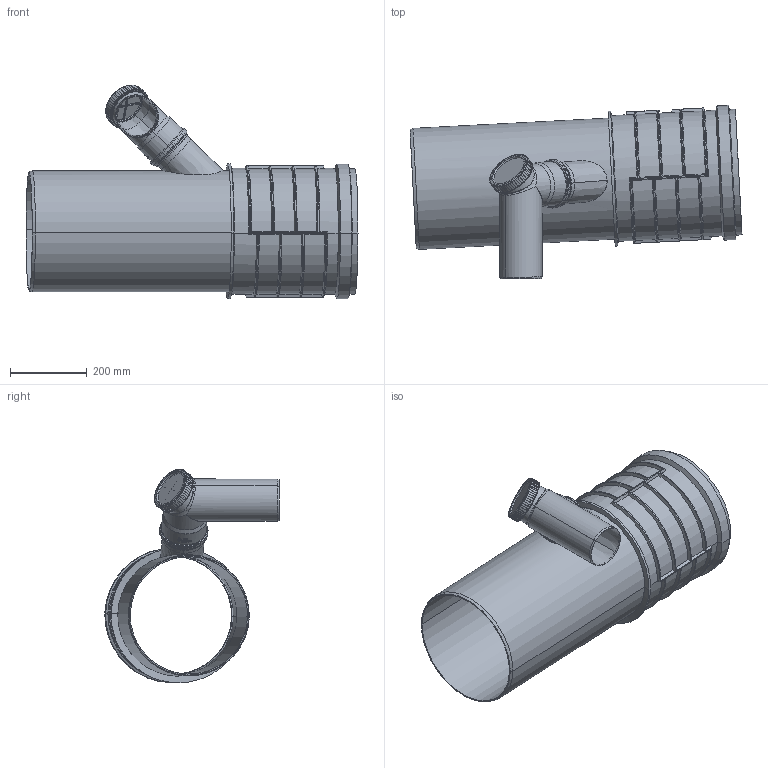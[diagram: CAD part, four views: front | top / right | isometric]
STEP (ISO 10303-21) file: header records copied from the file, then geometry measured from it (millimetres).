
FILE_DESCRIPTION((''),'2;1');
FILE_NAME('20-5500001949_ASM','2022-03-23T12:49:44',('ctgas'),('Centrotherm'),'CREO PARAMETRIC BY PTC INC, 2020281','CREO PARAMETRIC BY PTC INC, 2020281','');
FILE_SCHEMA(('AP242_MANAGED_MODEL_BASED_3D_ENGINEERING_MIM_LF { 1 0 10303 442 1 1 4 }'));
Length unit declared in the file: millimetre
Products named in the file (13): 1100000052_AF0; 20-1100000057; 20-1100009063_AF0; 20-1100009064_ASM; 20-1100009049_ASM; 20-1100000185_EINGEB; 20-1100009050_ASM; 20-1100000543; 20-0002073000; 20-0034033000; 20-0034013010; 20-1100002662_ASM; 20-5500001949_ASM
Assembly tree (12 placements, depth 5):
  20-5500001949_ASM
    20-1100009050_ASM
      20-1100009049_ASM
        1100000052_AF0
        20-1100000057
        20-1100009064_ASM
          20-1100009063_AF0
      20-1100000185_EINGEB
    20-1100002662_ASM
      20-1100000543
      20-0002073000
      20-0034033000
      20-0034013010
Bounding box: 862.52 x 452.61 x 555.4 mm (x, y, z)
Volume: 5534169.1 mm3; surface area: 2297111.5 mm2
Topology: 10 solids, 13 shells, 1692 faces, 4556 edges, 2952 vertices
Faces by surface type: plane 1188, cylinder 244, cone 140, torus 54, bspline 34, extrusion 28, sphere 4
Entity records: 61650 total; most frequent: CARTESIAN_POINT 19364, ORIENTED_EDGE 9112, DIRECTION 7876, EDGE_CURVE 4556, VERTEX_POINT 2952, VECTOR 2730, LINE 2702, AXIS2_PLACEMENT_3D 2573
